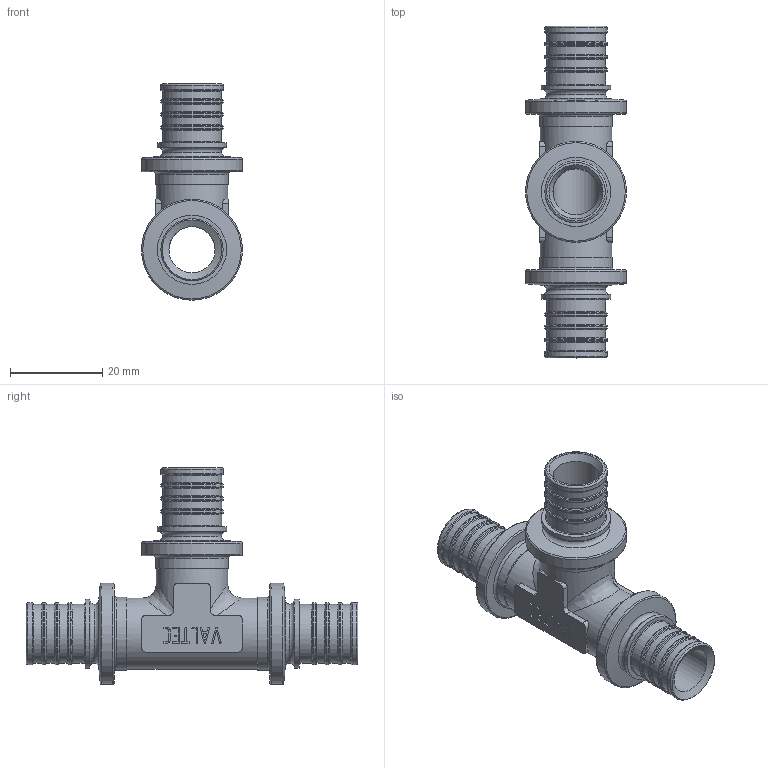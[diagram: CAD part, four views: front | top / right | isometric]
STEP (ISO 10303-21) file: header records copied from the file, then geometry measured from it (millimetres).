
FILE_DESCRIPTION(('STEP AP203'), '1');
FILE_NAME('覆.752241.001 - VTm.431.G.161616 秮鍣. 縺鳱', '', ('UNSPECIFIED'), ('UNSPECIFIED'), 'C3D Converter', 'C3D Toolkit', '');
FILE_SCHEMA(('CONFIG_CONTROL_DESIGN'));
Length unit declared in the file: millimetre
Products named in the file (1): ВР.752241.001
Bounding box: 21.9 x 71.98 x 46.95 mm (x, y, z)
Volume: 10545.9 mm3; surface area: 9574.7 mm2
Topology: 1 solids, 1 shells, 274 faces, 679 edges, 422 vertices
Faces by surface type: plane 76, extrusion 71, torus 63, cylinder 53, cone 9, bspline 2
Full cylindrical faces by diameter (mm): 10 x2, 12.8 x12, 13.5 x12, 15 x3, 15.5 x2, 15.8 x3, 21.9 x3
Entity records: 10494 total; most frequent: CARTESIAN_POINT 2454, ORIENTED_EDGE 1138, DIRECTION 1016, EDGE_CURVE 569, VERTEX_POINT 422, EDGE_LOOP 403, AXIS2_PLACEMENT_3D 348, VECTOR 320
